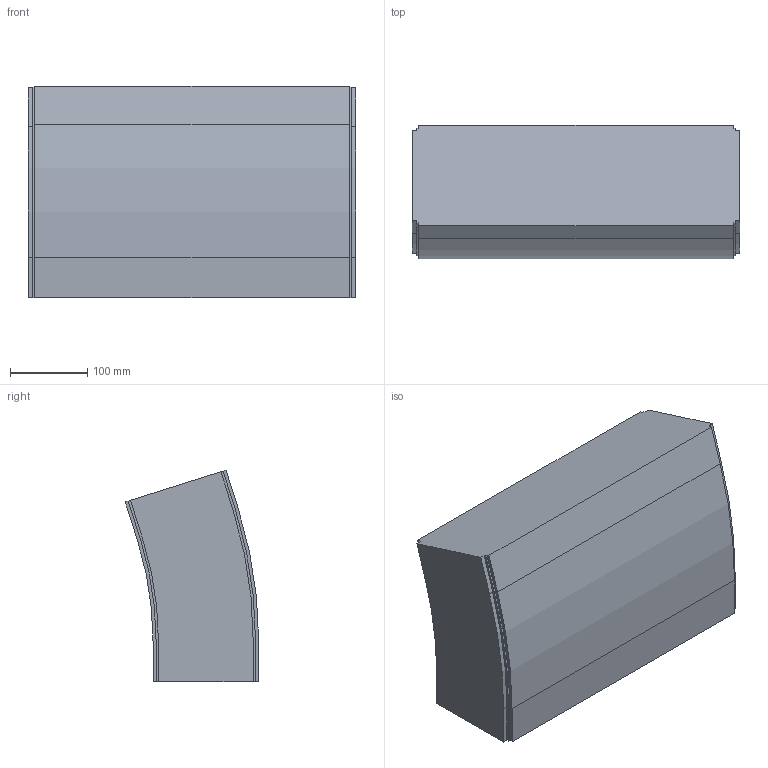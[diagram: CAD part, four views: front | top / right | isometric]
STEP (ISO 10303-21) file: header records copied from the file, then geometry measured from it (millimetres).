
FILE_DESCRIPTION (( 'STEP AP214' ), '1' );
FILE_NAME ('FS-MTC2-150-INOX verticaalbocht.420 17,5°.STEP', '2017-02-08T12:41:49', ( '' ), ( '' ), 'SwSTEP 2.0', 'SolidWorks 2016', '' );
FILE_SCHEMA (( 'AUTOMOTIVE_DESIGN' ));
Length unit declared in the file: millimetre
Products named in the file (1): FS-MTC2-150-INOX verticaalbocht.420 17,5°
Bounding box: 423 x 172.27 x 273.45 mm (x, y, z)
Volume: 14827630.6 mm3; surface area: 403454 mm2
Topology: 1 solids, 1 shells, 42 faces, 120 edges, 80 vertices
Faces by surface type: plane 32, cylinder 10
Entity records: 1398 total; most frequent: CARTESIAN_POINT 243, ORIENTED_EDGE 240, DIRECTION 226, EDGE_CURVE 120, LINE 100, VECTOR 100, VERTEX_POINT 80, AXIS2_PLACEMENT_3D 63
